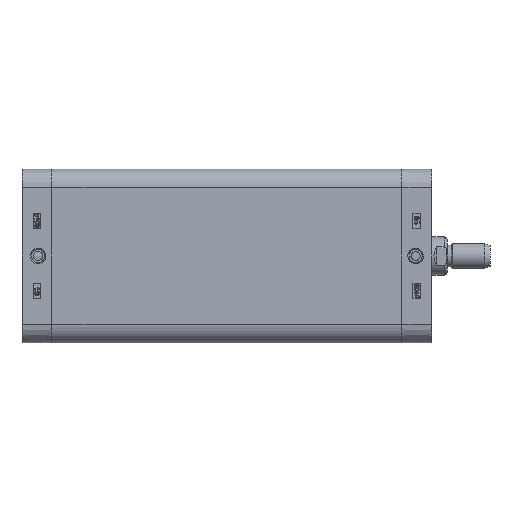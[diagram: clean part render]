
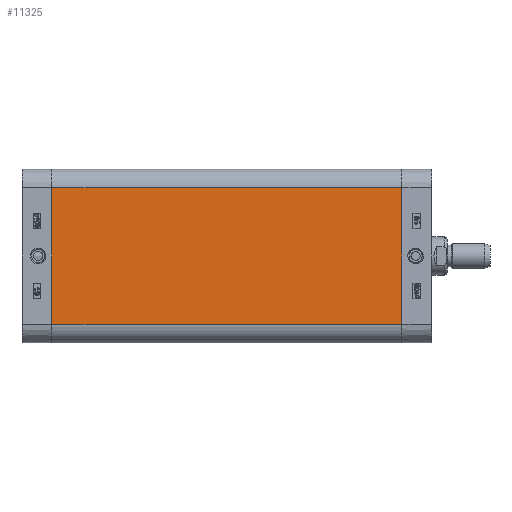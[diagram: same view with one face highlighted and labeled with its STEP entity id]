
A CAD part, left-side view. The second image highlights one B-rep face of the part: STEP entity #11325.
In plain terms, the highlighted planar face has unit normal (-1, 0, 0).
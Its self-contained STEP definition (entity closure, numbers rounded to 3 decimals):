
#5690=CARTESIAN_POINT('',(-56.65,-228.0,44.4));
#5691=VERTEX_POINT('',#5690);
#5698=CARTESIAN_POINT('',(-56.65,-228.0,-44.4));
#5699=VERTEX_POINT('',#5698);
#5700=CARTESIAN_POINT('',(-56.65,-228.0,-44.4));
#5701=DIRECTION('',(0.0,0.0,1.0));
#5702=VECTOR('',#5701,88.8);
#5703=LINE('',#5700,#5702);
#5704=EDGE_CURVE('',#5699,#5691,#5703,.T.);
#11283=CARTESIAN_POINT('',(-56.65,0.0,-44.4));
#11284=VERTEX_POINT('',#11283);
#11285=CARTESIAN_POINT('',(-56.65,0.0,-44.4));
#11286=DIRECTION('',(0.0,-1.0,0.0));
#11287=VECTOR('',#11286,228.0);
#11288=LINE('',#11285,#11287);
#11289=EDGE_CURVE('',#11284,#5699,#11288,.T.);
#11302=CARTESIAN_POINT('',(-56.65,0.0,-44.4));
#11303=DIRECTION('',(-1.0,0.0,0.0));
#11304=DIRECTION('',(0.0,0.0,1.0));
#11305=AXIS2_PLACEMENT_3D('',#11302,#11303,#11304);
#11306=PLANE('',#11305);
#11307=ORIENTED_EDGE('',*,*,#5704,.T.);
#11308=CARTESIAN_POINT('',(-56.65,0.0,44.4));
#11309=VERTEX_POINT('',#11308);
#11310=CARTESIAN_POINT('',(-56.65,0.0,44.4));
#11311=DIRECTION('',(0.0,-1.0,0.0));
#11312=VECTOR('',#11311,228.0);
#11313=LINE('',#11310,#11312);
#11314=EDGE_CURVE('',#11309,#5691,#11313,.T.);
#11315=ORIENTED_EDGE('',*,*,#11314,.F.);
#11316=CARTESIAN_POINT('',(-56.65,0.0,-44.4));
#11317=DIRECTION('',(0.0,0.0,1.0));
#11318=VECTOR('',#11317,88.8);
#11319=LINE('',#11316,#11318);
#11320=EDGE_CURVE('',#11284,#11309,#11319,.T.);
#11321=ORIENTED_EDGE('',*,*,#11320,.F.);
#11322=ORIENTED_EDGE('',*,*,#11289,.T.);
#11323=EDGE_LOOP('',(#11307,#11315,#11321,#11322));
#11324=FACE_OUTER_BOUND('',#11323,.T.);
#11325=ADVANCED_FACE('',(#11324),#11306,.T.);
